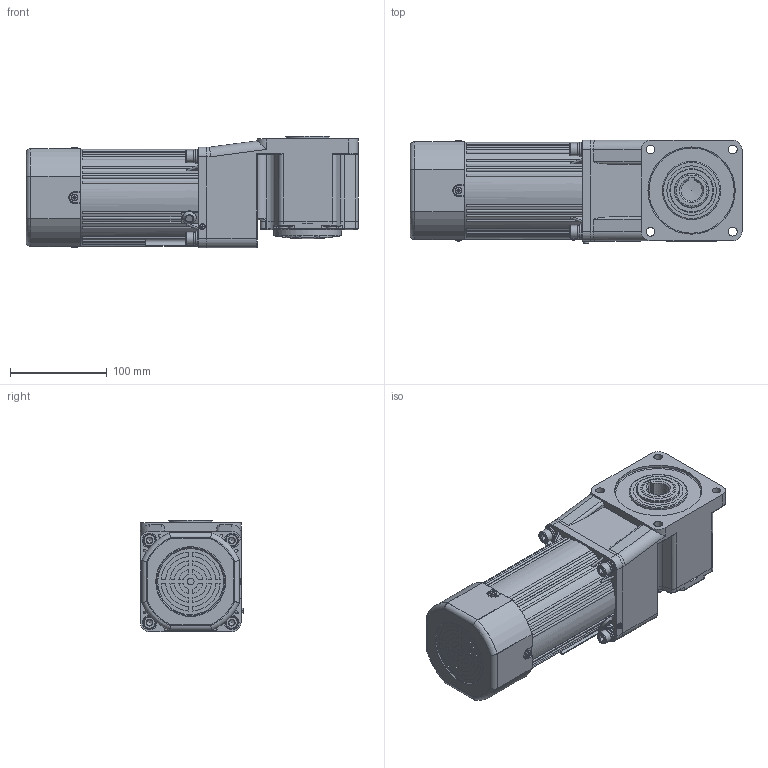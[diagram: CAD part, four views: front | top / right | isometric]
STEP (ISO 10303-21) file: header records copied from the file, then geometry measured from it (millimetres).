
FILE_DESCRIPTION(/* description */ (''),/* implementation_level */ '2;1');
FILE_NAME(/* name */ '100+直角中空-刹车风叶-160-250W 新版.stp',/* time_stamp */ '2025-03-25T15:37:27+08:00',/* author */ (''),/* organization */ (''),/* preprocessor_version */ 'ST-DEVELOPER v18.102',/* originating_system */ 'SIEMENS PLM Software NX 2027',/* authorisation */ '');
FILE_SCHEMA (('AP203_CONFIGURATION_CONTROLLED_3D_DESIGN_OF_MECHANICAL_PARTS_AND_ASSEMBLIES_MIM_LF { 1 0 10303 403 2 1 2}'));
Length unit declared in the file: millimetre
Products named in the file (1): 6RK160-200CC·MF_6GU3-750K-C·15L_stp_objects
Bounding box: 342.5 x 106.83 x 115.53 mm (x, y, z)
Volume: 3250627.1 mm3; surface area: 432923.6 mm2
Topology: 24 solids, 24 shells, 1695 faces, 4379 edges, 2828 vertices
Faces by surface type: plane 722, cylinder 535, bspline 215, torus 103, cone 94, sphere 26
Full cylindrical faces by diameter (mm): 2.6 x2, 2.7 x1, 3 x3, 3.2 x2, 3.3 x6, 3.5 x6, 3.6 x4, 4 x4, 5.1 x2, 6 x10, 6.8 x12, 7 x2, 7.5 x2, 7.76 x4, 8.4 x4, 9 x13, 9.3 x1, 9.5 x4, 13 x4, 14 x8, 15 x5, 15.5 x2, 19 x2, 27 x1, 28 x1, 30 x3, 35 x1, 37 x1, 44 x1, 45 x2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
Entity records: 52464 total; most frequent: CARTESIAN_POINT 13329, ORIENTED_EDGE 7972, DIRECTION 7692, EDGE_CURVE 3986, AXIS2_PLACEMENT_3D 3075, VERTEX_POINT 2693, EDGE_LOOP 2142, ADVANCED_FACE 1694
